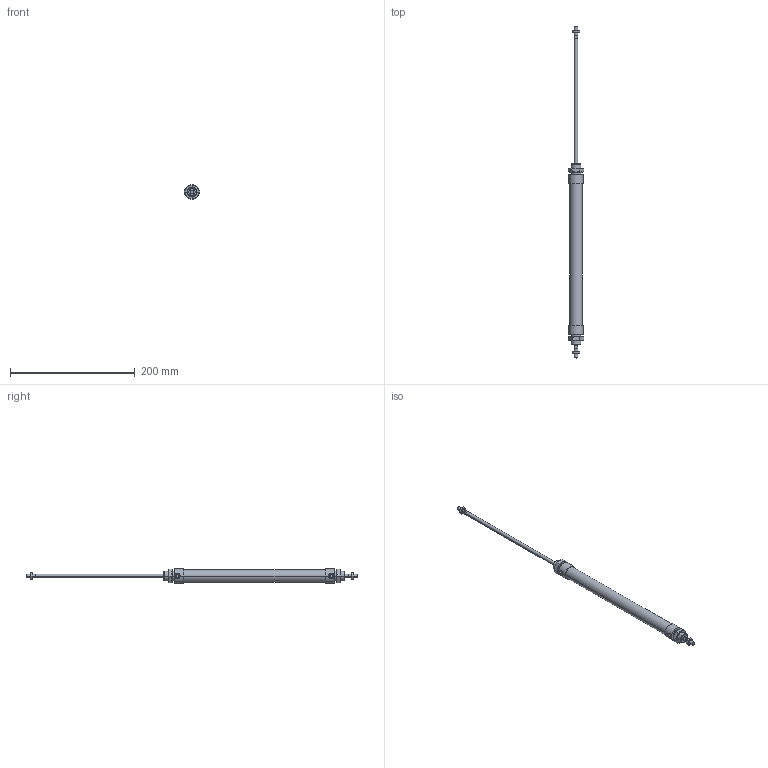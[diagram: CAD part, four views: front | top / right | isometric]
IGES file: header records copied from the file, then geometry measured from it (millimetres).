
Global section: file name: No Iges File Name specified; native system: AutoDesk Inventor R10; preprocessor: AutoDesk Inventor Iges Exporter R10; author: No Author specified; organization: No Organization specified; date: 20060105.143413; units: millimetre
Bounding box: 25.4 x 532 x 23 mm (x, y, z)
Volume: 100331.5 mm3; surface area: 37676.2 mm2
Topology: 6 solids, 6 shells, 184 faces, 394 edges, 230 vertices
Faces by surface type: cone 68, plane 58, cylinder 24, bspline 20, revolution 14
